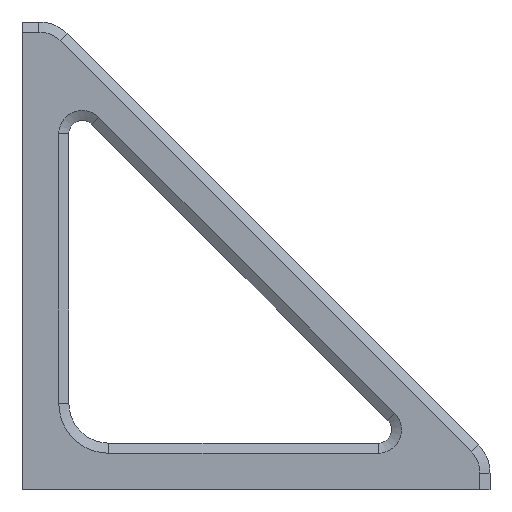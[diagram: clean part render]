
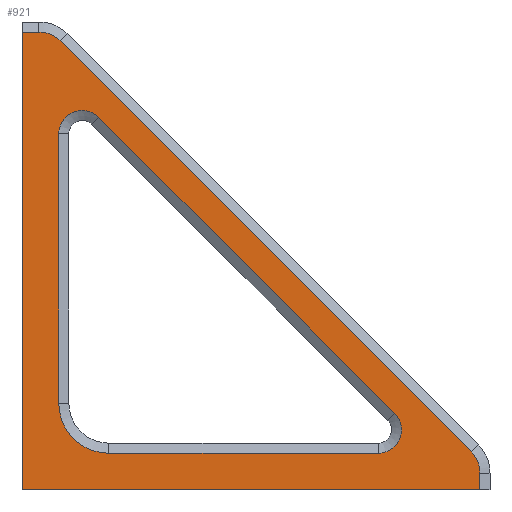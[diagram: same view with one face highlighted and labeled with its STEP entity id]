
A CAD part, front view. The second image highlights one B-rep face of the part: STEP entity #921.
In plain terms, the highlighted planar face has unit normal (0, -1, 0).
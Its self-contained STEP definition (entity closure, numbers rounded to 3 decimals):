
#36=CIRCLE('',#991,9.45);
#40=CIRCLE('',#999,9.45);
#43=CIRCLE('',#1004,12.15);
#45=CIRCLE('',#1008,12.15);
#46=CIRCLE('',#1011,20.25);
#78=FACE_BOUND('',#174,.T.);
#112=FACE_OUTER_BOUND('',#173,.T.);
#173=EDGE_LOOP('',(#737,#738,#739,#740,#741,#742,#743));
#174=EDGE_LOOP('',(#744,#745,#746,#747,#748,#749));
#259=LINE('',#1465,#356);
#264=LINE('',#1477,#361);
#268=LINE('',#1489,#365);
#269=LINE('',#1492,#366);
#270=LINE('',#1493,#367);
#271=LINE('',#1494,#368);
#272=LINE('',#1496,#369);
#273=LINE('',#1499,#370);
#356=VECTOR('',#1186,27.);
#361=VECTOR('',#1199,27.);
#365=VECTOR('',#1211,27.);
#366=VECTOR('',#1214,27.);
#367=VECTOR('',#1215,27.);
#368=VECTOR('',#1216,27.);
#369=VECTOR('',#1217,27.);
#370=VECTOR('',#1220,27.);
#434=VERTEX_POINT('',#1422);
#435=VERTEX_POINT('',#1423);
#446=VERTEX_POINT('',#1454);
#447=VERTEX_POINT('',#1456);
#449=VERTEX_POINT('',#1462);
#450=VERTEX_POINT('',#1464);
#452=VERTEX_POINT('',#1470);
#453=VERTEX_POINT('',#1475);
#454=VERTEX_POINT('',#1479);
#456=VERTEX_POINT('',#1485);
#458=VERTEX_POINT('',#1491);
#459=VERTEX_POINT('',#1495);
#460=VERTEX_POINT('',#1497);
#528=EDGE_CURVE('',#434,#435,#36,.T.);
#545=EDGE_CURVE('',#446,#447,#40,.T.);
#549=EDGE_CURVE('',#449,#450,#259,.T.);
#554=EDGE_CURVE('',#450,#452,#43,.T.);
#556=EDGE_CURVE('',#452,#453,#264,.T.);
#559=EDGE_CURVE('',#453,#454,#45,.T.);
#562=EDGE_CURVE('',#454,#456,#268,.T.);
#563=EDGE_CURVE('',#458,#449,#269,.T.);
#564=EDGE_CURVE('',#458,#456,#270,.T.);
#565=EDGE_CURVE('',#447,#434,#271,.T.);
#566=EDGE_CURVE('',#459,#446,#272,.T.);
#567=EDGE_CURVE('',#460,#459,#46,.T.);
#568=EDGE_CURVE('',#435,#460,#273,.T.);
#737=ORIENTED_EDGE('',*,*,#556,.F.);
#738=ORIENTED_EDGE('',*,*,#554,.F.);
#739=ORIENTED_EDGE('',*,*,#549,.F.);
#740=ORIENTED_EDGE('',*,*,#563,.F.);
#741=ORIENTED_EDGE('',*,*,#564,.T.);
#742=ORIENTED_EDGE('',*,*,#562,.F.);
#743=ORIENTED_EDGE('',*,*,#559,.F.);
#744=ORIENTED_EDGE('',*,*,#528,.F.);
#745=ORIENTED_EDGE('',*,*,#565,.F.);
#746=ORIENTED_EDGE('',*,*,#545,.F.);
#747=ORIENTED_EDGE('',*,*,#566,.F.);
#748=ORIENTED_EDGE('',*,*,#567,.F.);
#749=ORIENTED_EDGE('',*,*,#568,.F.);
#878=PLANE('',#1010);
#921=ADVANCED_FACE('',(#112,#78),#878,.F.);
#991=AXIS2_PLACEMENT_3D('',#1424,#1149,#1150);
#999=AXIS2_PLACEMENT_3D('',#1457,#1178,#1179);
#1004=AXIS2_PLACEMENT_3D('',#1473,#1194,#1195);
#1008=AXIS2_PLACEMENT_3D('',#1483,#1205,#1206);
#1010=AXIS2_PLACEMENT_3D('',#1490,#1212,#1213);
#1011=AXIS2_PLACEMENT_3D('',#1498,#1218,#1219);
#1149=DIRECTION('center_axis',(0.,-1.,0.));
#1150=DIRECTION('ref_axis',(-1.,0.,0.));
#1178=DIRECTION('center_axis',(0.,-1.,0.));
#1179=DIRECTION('ref_axis',(0.707,0.,0.707));
#1186=DIRECTION('',(1.,0.,0.));
#1194=DIRECTION('center_axis',(0.,1.,0.));
#1195=DIRECTION('ref_axis',(0.,0.,1.));
#1199=DIRECTION('',(0.707,0.,-0.707));
#1205=DIRECTION('center_axis',(0.,1.,0.));
#1206=DIRECTION('ref_axis',(0.707,0.,0.707));
#1211=DIRECTION('',(0.,0.,-1.));
#1212=DIRECTION('center_axis',(0.,1.,0.));
#1213=DIRECTION('ref_axis',(0.,0.,1.));
#1214=DIRECTION('',(0.,0.,1.));
#1215=DIRECTION('',(1.,0.,0.));
#1216=DIRECTION('',(-0.707,0.,0.707));
#1217=DIRECTION('',(1.,0.,0.));
#1218=DIRECTION('center_axis',(0.,-1.,0.));
#1219=DIRECTION('ref_axis',(0.,0.,-1.));
#1220=DIRECTION('',(0.,0.,-1.));
#1422=CARTESIAN_POINT('',(19.495,-9.25,34.504));
#1423=CARTESIAN_POINT('',(3.362,-9.25,27.822));
#1424=CARTESIAN_POINT('Origin',(12.812,-9.25,27.822));
#1454=CARTESIAN_POINT('',(132.347,-9.25,-101.162));
#1456=CARTESIAN_POINT('',(139.029,-9.25,-85.03));
#1457=CARTESIAN_POINT('Origin',(132.347,-9.25,-91.712));
#1462=CARTESIAN_POINT('',(-11.488,-9.25,68.938));
#1464=CARTESIAN_POINT('',(-4.698,-9.25,68.938));
#1465=CARTESIAN_POINT('',(35.762,-9.25,68.938));
#1470=CARTESIAN_POINT('',(3.894,-9.25,65.379));
#1473=CARTESIAN_POINT('Origin',(-4.698,-9.25,56.788));
#1475=CARTESIAN_POINT('',(169.904,-9.25,-100.631));
#1477=CARTESIAN_POINT('',(45.396,-9.25,23.876));
#1479=CARTESIAN_POINT('',(173.462,-9.25,-109.223));
#1483=CARTESIAN_POINT('Origin',(161.312,-9.25,-109.223));
#1485=CARTESIAN_POINT('',(173.462,-9.25,-116.012));
#1489=CARTESIAN_POINT('',(173.462,-9.25,-65.368));
#1490=CARTESIAN_POINT('Origin',(83.012,-9.25,-21.512));
#1491=CARTESIAN_POINT('',(-11.488,-9.25,-116.012));
#1492=CARTESIAN_POINT('',(-11.488,-9.25,-116.012));
#1493=CARTESIAN_POINT('',(-11.488,-9.25,-116.012));
#1494=CARTESIAN_POINT('',(109.146,-9.25,-55.147));
#1495=CARTESIAN_POINT('',(23.612,-9.25,-101.162));
#1496=CARTESIAN_POINT('',(53.312,-9.25,-101.162));
#1497=CARTESIAN_POINT('',(3.362,-9.25,-80.912));
#1498=CARTESIAN_POINT('Origin',(23.612,-9.25,-80.912));
#1499=CARTESIAN_POINT('',(3.362,-9.25,3.155));
